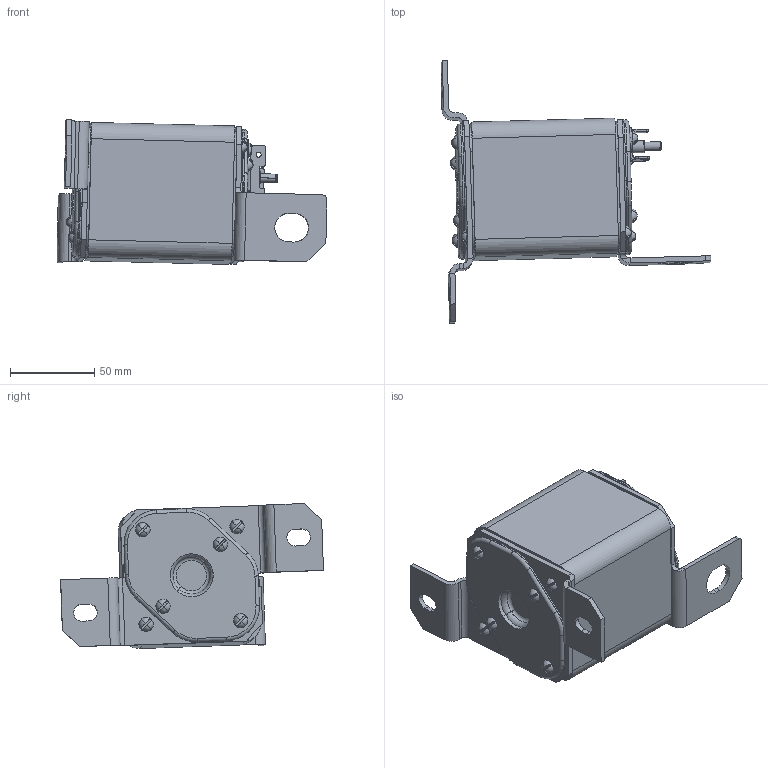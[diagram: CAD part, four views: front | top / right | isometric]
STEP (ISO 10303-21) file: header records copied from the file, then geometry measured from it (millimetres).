
FILE_DESCRIPTION (( 'STEP AP214' ), '1' );
FILE_NAME ('Ïðåäîõðàíèòåëü ÏÏ57-39982-èñï1.STEP', '2022-09-22T11:24:02', ( '' ), ( '' ), 'SwSTEP 2.0', 'SolidWorks 2018', '' );
FILE_SCHEMA (( 'AUTOMOTIVE_DESIGN' ));
Length unit declared in the file: millimetre
Products named in the file (18): ﾂ鏆鮏 ﾃﾆﾈﾊ.745212.002_-00; Ïðîêëàäêà ÃÆÈÊ.711111.005; Òàáëè÷êà 32õ48; 暑腼圜铌 闷仁.725512.005; Ïðîêëàäêà ÃÆÈÊ.741125.009; 署赅 闷仁.745152.009_-02; Ïðîêëàäêà ÃÆÈÊ.741332.004_‘ ¢¬ïâ¨­®©; Ïðîâîëîêà_¤«ï á¡ ãª § â¥«ï; Ñêîáà ÃÆÈÊ.745316.007_-00; -01; 署赅 闷仁.745152.009_-00; 噪囗弼 闷仁.745342.018; 妈眚 闷仁.758161.003_儐垔.758161.003-05; Óêàçàòåëü ÃÆÈÊ.305441.004ÑÁ; ﾏ跖浯 ﾃﾆﾈﾊ.753511.003_20,8; Ïðåäîõðàíèòåëü ÏÏ57-39982-èñï1; 扻豵鵨 弝偫80 85; Çàæèì ÃÆÈÊ.758584.002_¤«ï á¡; 暑腼圜铌 闷仁.725512.006
Assembly tree (30 placements, depth 3):
  Ïðåäîõðàíèòåëü ÏÏ57-39982-èñï1
    扻豵鵨 弝偫80 85
    Ïðîêëàäêà ÃÆÈÊ.741125.009  x2
    噪囗弼 闷仁.745342.018
    ﾂ鏆鮏 ﾃﾆﾈﾊ.745212.002_-00
    Ïðîêëàäêà ÃÆÈÊ.741332.004_‘ ¢¬ïâ¨­®©  x2
    署赅 闷仁.745152.009_-00
    署赅 闷仁.745152.009_-02
    Óêàçàòåëü ÃÆÈÊ.305441.004ÑÁ
      暑腼圜铌 闷仁.725512.005
      暑腼圜铌 闷仁.725512.006
      ﾏ跖浯 ﾃﾆﾈﾊ.753511.003_20,8
      Çàæèì ÃÆÈÊ.758584.002_¤«ï á¡
      Ïðîêëàäêà ÃÆÈÊ.711111.005
      Ïðîâîëîêà_¤«ï á¡ ãª § â¥«ï
    Ñêîáà ÃÆÈÊ.745316.007_-00; -01
    妈眚 闷仁.758161.003_儐垔.758161.003-05  x12
    Òàáëè÷êà 32õ48
Bounding box: 159.96 x 155.92 x 85.93 mm (x, y, z)
Volume: 391729.8 mm3; surface area: 151369.8 mm2
Topology: 29 solids, 29 shells, 808 faces, 1907 edges, 1183 vertices
Faces by surface type: plane 362, cylinder 320, torus 58, cone 38, sphere 24, bspline 6
Entity records: 23768 total; most frequent: CARTESIAN_POINT 8381, DIRECTION 3266, ORIENTED_EDGE 2882, EDGE_CURVE 1441, AXIS2_PLACEMENT_3D 1208, VERTEX_POINT 881, VECTOR 850, LINE 850
